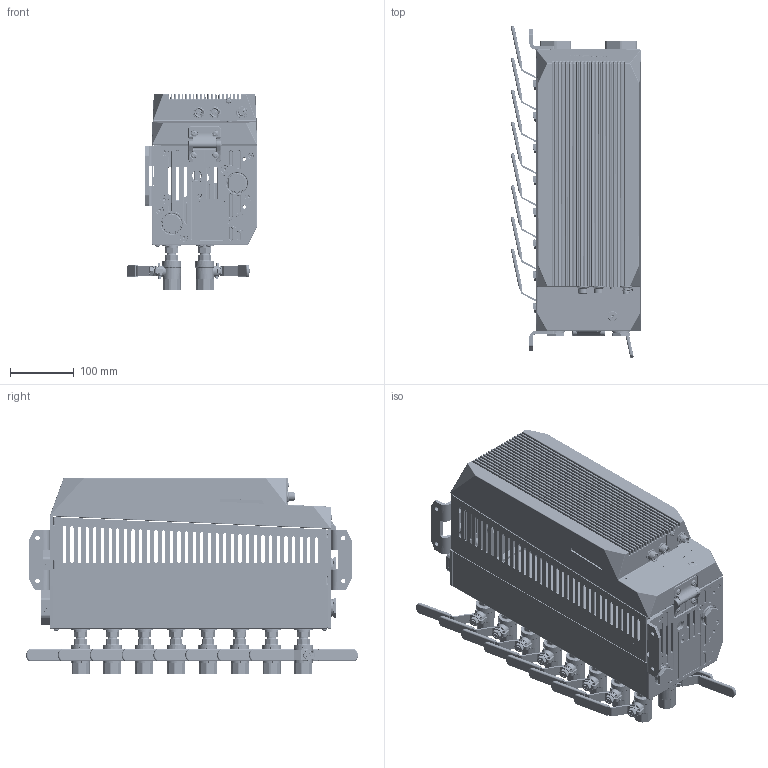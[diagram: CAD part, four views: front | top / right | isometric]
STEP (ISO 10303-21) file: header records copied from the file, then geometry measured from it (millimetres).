
FILE_DESCRIPTION (( 'STEP AP214' ), '1' );
FILE_NAME ('HB-FX1XXL61-8-ZH.STEP', '2026-03-02T09:03:21', ( '' ), ( '' ), 'SwSTEP 2.0', 'SolidWorks 2023', '' );
FILE_SCHEMA (( 'AUTOMOTIVE_DESIGN' ));
Length unit declared in the file: millimetre
Products named in the file (25): Kopie von 29821-X^Kopie von K8534-Hülle Teil3_K8534-Hülle kompl_00; Kopie von Kopie von 24568^Kopie von K8534-Hülle Teil3_K8534-Hülle kompl_00; Kopie von 29715-X^Kopie von K8534-Hülle Teil2_K8534-Hülle kompl_29715-1; Kopie von 29733-X^Kopie von K8534-Hülle Teil2_K8534-Hülle kompl; 29702_A15x1-A2; Kopie von 29730^Kopie von K8534-Hülle Teil3_K8534-Hülle kompl_00; 29788_Geschlossen; HB-FX1XXL61-8-ZH; Kopie von 29816-X^Kopie von K8534-Hülle Teil3_K8534-Hülle kompl_01-mit Beschriftung; Kopie von 29734-X^Kopie von K8534-Hülle Teil3_K8534-Hülle kompl_00; Kopie von 28862^Kopie von K8534-Hülle Teil2_K8534-Hülle kompl_M5x12; Kopie von 29827^Kopie von K8534-Hülle Teil2_K8534-Hülle kompl; Kopie von K8534-Hülle LINKS^Kopie von K8534-Hülle Teil3_K8534-Hülle kompl_8-FACH; Kopie von K8534-Hülle Teil2^K8534-Hülle kompl_8-Fach HB-Therm; Kopie von 28706^Kopie von K8534-Hülle Teil2_K8534-Hülle kompl_180°; KX508-2_2^Kopie von 28706_Kopie von K8534-Hülle Teil2_K8534-Hülle kompl; KX508-2_3^Kopie von 28706_Kopie von K8534-Hülle Teil2_K8534-Hülle kompl; KX508-2_1^Kopie von 28706_Kopie von K8534-Hülle Teil2_K8534-Hülle kompl; Kopie von 29714^Kopie von K8534-Hülle Teil2_K8534-Hülle kompl; 29669_00; Kopie von K8534-Hülle Teil3^K8534-Hülle kompl_8-FACH-LINKS HB-Therm; Kopie von 29810-X^Kopie von K8534-Hülle Teil3_K8534-Hülle kompl_01-mit Beschriftung; Kopie von Kopie von 29730^Kopie von K8534-Hülle Teil2_K8534-Hülle kompl_00; 29857_00 - geschlossen; Kopie (2) von B3061620^Kopie von K8534-Hülle Teil2_K8534-Hülle kompl_M4x12
Assembly tree (49 placements, depth 4):
  HB-FX1XXL61-8-ZH
    Kopie von K8534-Hülle Teil3^K8534-Hülle kompl_8-FACH-LINKS HB-Therm
      Kopie von 29734-X^Kopie von K8534-Hülle Teil3_K8534-Hülle kompl_00  x2
      Kopie von 29730^Kopie von K8534-Hülle Teil3_K8534-Hülle kompl_00  x4
      Kopie von K8534-Hülle LINKS^Kopie von K8534-Hülle Teil3_K8534-Hülle kompl_8-FACH
      Kopie von 29821-X^Kopie von K8534-Hülle Teil3_K8534-Hülle kompl_00
      Kopie von 29816-X^Kopie von K8534-Hülle Teil3_K8534-Hülle kompl_01-mit Beschriftung
      Kopie von 29810-X^Kopie von K8534-Hülle Teil3_K8534-Hülle kompl_01-mit Beschriftung
      Kopie von Kopie von 24568^Kopie von K8534-Hülle Teil3_K8534-Hülle kompl_00  x2
    Kopie von K8534-Hülle Teil2^K8534-Hülle kompl_8-Fach HB-Therm
      Kopie von 29715-X^Kopie von K8534-Hülle Teil2_K8534-Hülle kompl_29715-1
      Kopie von 29827^Kopie von K8534-Hülle Teil2_K8534-Hülle kompl  x2
      Kopie von 29714^Kopie von K8534-Hülle Teil2_K8534-Hülle kompl
      Kopie von 28862^Kopie von K8534-Hülle Teil2_K8534-Hülle kompl_M5x12  x4
      Kopie von 28706^Kopie von K8534-Hülle Teil2_K8534-Hülle kompl_180°
        KX508-2_1^Kopie von 28706_Kopie von K8534-Hülle Teil2_K8534-Hülle kompl
        KX508-2_2^Kopie von 28706_Kopie von K8534-Hülle Teil2_K8534-Hülle kompl
        KX508-2_3^Kopie von 28706_Kopie von K8534-Hülle Teil2_K8534-Hülle kompl
      Kopie von Kopie von 29730^Kopie von K8534-Hülle Teil2_K8534-Hülle kompl_00  x2
      Kopie von 29733-X^Kopie von K8534-Hülle Teil2_K8534-Hülle kompl
      Kopie (2) von B3061620^Kopie von K8534-Hülle Teil2_K8534-Hülle kompl_M4x12
    29857_00 - geschlossen  x16
      29788_Geschlossen
      29669_00
      29702_A15x1-A2
Bounding box: 204.47 x 521.24 x 307.8 mm (x, y, z)
Volume: 2224010.9 mm3; surface area: 1472336.4 mm2
Topology: 326 solids, 327 shells, 13003 faces, 31261 edges, 19135 vertices
Faces by surface type: plane 4582, cylinder 3768, cone 1520, torus 1516, bspline 1260, sphere 357
Full cylindrical faces by diameter (mm): 2.5 x22, 3.3 x24, 3.6 x1, 4 x12, 4.2 x5, 4.5 x6, 4.6 x1, 4.9 x6, 5 x36, 5.2 x4, 6 x14, 6.6 x12, 6.8 x2, 7 x18, 7.8 x2, 8 x96, 8.013 x16, 8.3 x1, 8.4 x4, 9.4 x1, 10 x33, 10.2 x1, 10.3 x1, 10.5 x64, 10.55 x1, 10.8 x2, 11.04 x16, 12 x26, 12.1 x10, 12.3 x16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
Entity records: 335762 total; most frequent: CARTESIAN_POINT 103123, ORIENTED_EDGE 35220, DIRECTION 33899, EDGE_CURVE 17610, AXIS2_PLACEMENT_3D 12999, VERTEX_POINT 11167, EDGE_LOOP 9081, FACE_OUTER_BOUND 8047
